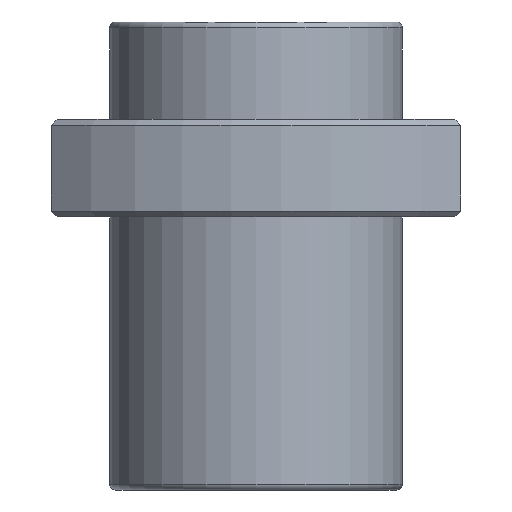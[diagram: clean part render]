
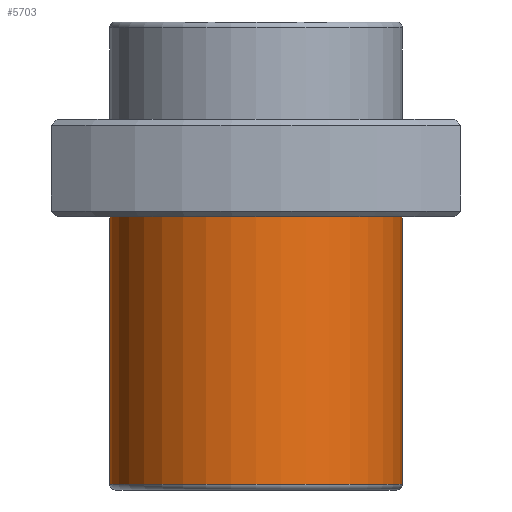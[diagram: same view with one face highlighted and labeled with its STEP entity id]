
A CAD part, front view. The second image highlights one B-rep face of the part: STEP entity #5703.
In plain terms, the highlighted cylindrical face has radius 7.5 mm (diameter 15 mm), a full revolution.
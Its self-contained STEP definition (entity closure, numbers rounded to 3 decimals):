
#95=CYLINDRICAL_SURFACE('',#6073,7.5);
#123=CIRCLE('',#6074,7.5);
#124=CIRCLE('',#6075,7.5);
#1709=ORIENTED_EDGE('',*,*,#3355,.T.);
#1710=ORIENTED_EDGE('',*,*,#3356,.T.);
#3355=EDGE_CURVE('',#4177,#4177,#123,.T.);
#3356=EDGE_CURVE('',#4178,#4178,#124,.F.);
#4177=VERTEX_POINT('',#9030);
#4178=VERTEX_POINT('',#9032);
#4660=EDGE_LOOP('',(#1709));
#4661=EDGE_LOOP('',(#1710));
#5076=FACE_BOUND('',#4660,.T.);
#5077=FACE_BOUND('',#4661,.T.);
#5703=ADVANCED_FACE('',(#5076,#5077),#95,.T.);
#6073=AXIS2_PLACEMENT_3D('',#9028,#6598,#6599);
#6074=AXIS2_PLACEMENT_3D('',#9029,#6600,#6601);
#6075=AXIS2_PLACEMENT_3D('',#9031,#6602,#6603);
#6598=DIRECTION('',(0.,0.,1.));
#6599=DIRECTION('',(1.,0.,0.));
#6600=DIRECTION('',(0.,0.,1.));
#6601=DIRECTION('',(1.,0.,0.));
#6602=DIRECTION('',(0.,0.,1.));
#6603=DIRECTION('',(1.,0.,0.));
#9028=CARTESIAN_POINT('',(0.,0.,-19.));
#9029=CARTESIAN_POINT('',(0.,0.,-18.7));
#9030=CARTESIAN_POINT('',(7.5,0.,-18.7));
#9031=CARTESIAN_POINT('',(0.,0.,-5.));
#9032=CARTESIAN_POINT('',(7.5,0.,-5.));
